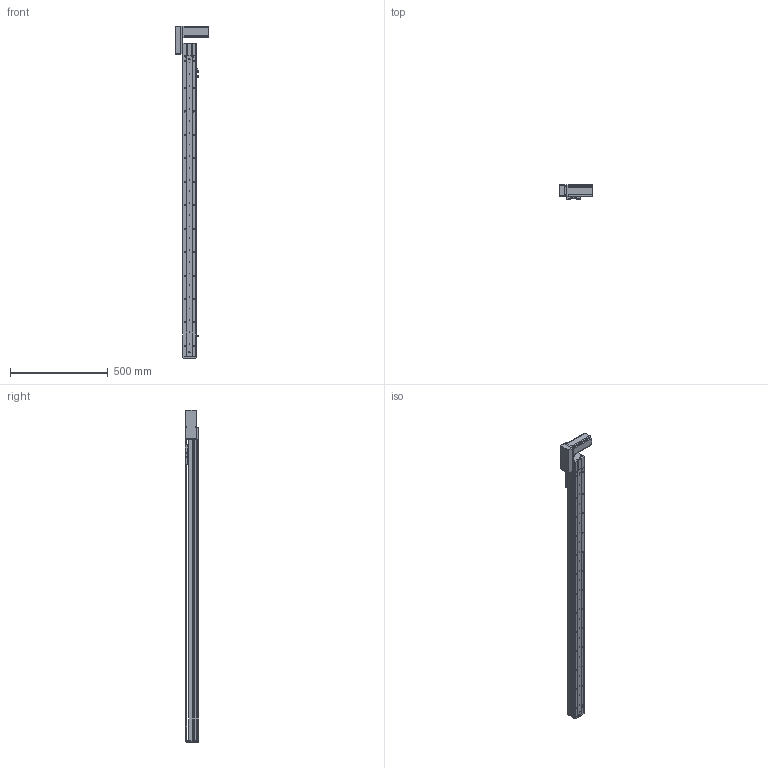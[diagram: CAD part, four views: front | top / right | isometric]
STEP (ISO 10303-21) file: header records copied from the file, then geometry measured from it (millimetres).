
FILE_DESCRIPTION (( 'STEP AP214' ), '1' );
FILE_NAME ('KSD68BS-S1350-MRB-CM.STEP', '2019-11-06T07:58:06', ( '微软用户' ), ( '微软中国' ), 'SwSTEP 2.0', 'SolidWorks 2014', '' );
FILE_SCHEMA (( 'AUTOMOTIVE_DESIGN' ));
Length unit declared in the file: millimetre
Products named in the file (11): 悵誘欶奻狟殏; 68宽马达安装板连板上折同步带; 68宽单导轨半封闭同步带主动轮座右; 68单导轨同步带半封闭端板; KSD68BS 1350俴最裔啣圉猾敕; 覜茼え68遵圉猾敕; KSD68BS半封闭同步带传动导轨座; U倰嫖萇EEㄜSX672; 台达ECMA－C20604AS伺服电机（400W); KSD68BS 1350俴最菁啣圉猾敕; KSD68BS-S1350-MRB-CM
Assembly tree (12 placements, depth 2):
  KSD68BS-S1350-MRB-CM
    KSD68BS 1350俴最菁啣圉猾敕
    台达ECMA－C20604AS伺服电机（400W)
    U倰嫖萇EEㄜSX672  x3
    KSD68BS半封闭同步带传动导轨座
    覜茼え68遵圉猾敕
    KSD68BS 1350俴最裔啣圉猾敕
    68单导轨同步带半封闭端板
    68宽单导轨半封闭同步带主动轮座右
    68宽马达安装板连板上折同步带
    悵誘欶奻狟殏
Bounding box: 167.2 x 70.5 x 1699.5 mm (x, y, z)
Volume: 2812546.1 mm3; surface area: 1025496.9 mm2
Topology: 13 solids, 13 shells, 1508 faces, 4386 edges, 2856 vertices
Faces by surface type: cylinder 780, plane 645, cone 83
Entity records: 57625 total; most frequent: CARTESIAN_POINT 11382, ORIENTED_EDGE 7524, DIRECTION 7334, EDGE_CURVE 3762, AXIS2_PLACEMENT_3D 2640, VERTEX_POINT 2480, VECTOR 2054, LINE 2054
